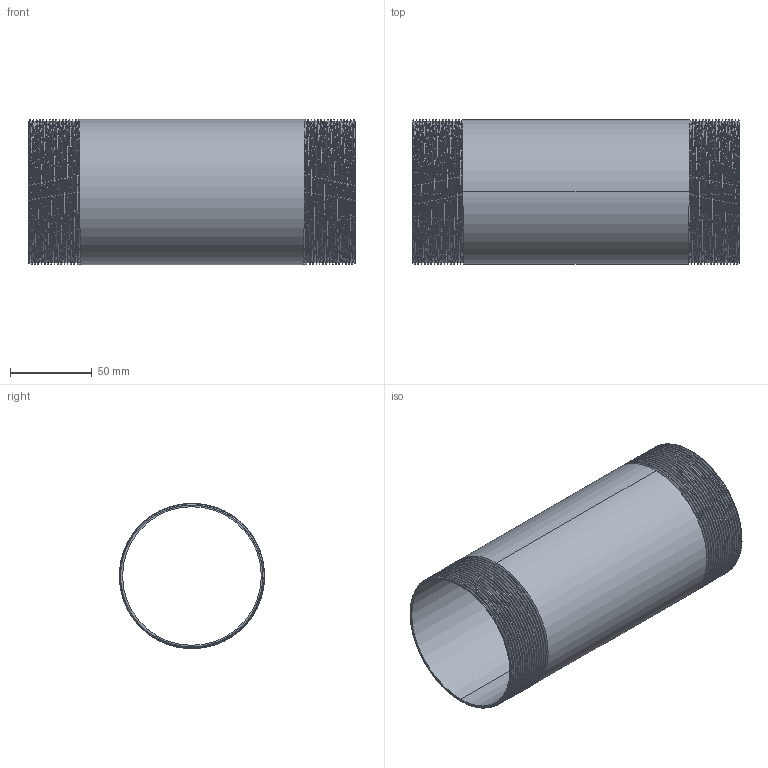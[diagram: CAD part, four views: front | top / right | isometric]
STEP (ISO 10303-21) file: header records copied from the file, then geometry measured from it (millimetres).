
FILE_DESCRIPTION (( 'STEP AP203' ), '1' );
FILE_NAME ('3D_R210_3x200_17185915.STEP', '2024-08-16T14:00:17', ( '' ), ( '' ), 'SwSTEP 2.0', 'SolidWorks 2024', '' );
FILE_SCHEMA (( 'CONFIG_CONTROL_DESIGN' ));
Length unit declared in the file: millimetre
Products named in the file (1): 3D_R210_3x200_17185915
Bounding box: 200 x 88.82 x 88.9 mm (x, y, z)
Volume: 98521.4 mm3; surface area: 119395.7 mm2
Topology: 1 solids, 1 shells, 80 faces, 228 edges, 150 vertices
Faces by surface type: cone 66, bspline 6, cylinder 4, plane 4
Entity records: 16579 total; most frequent: CARTESIAN_POINT 14717, ORIENTED_EDGE 456, DIRECTION 248, EDGE_CURVE 228, VERTEX_POINT 150, B_SPLINE_CURVE_WITH_KNOTS 134, AXIS2_PLACEMENT_3D 87, EDGE_LOOP 82
